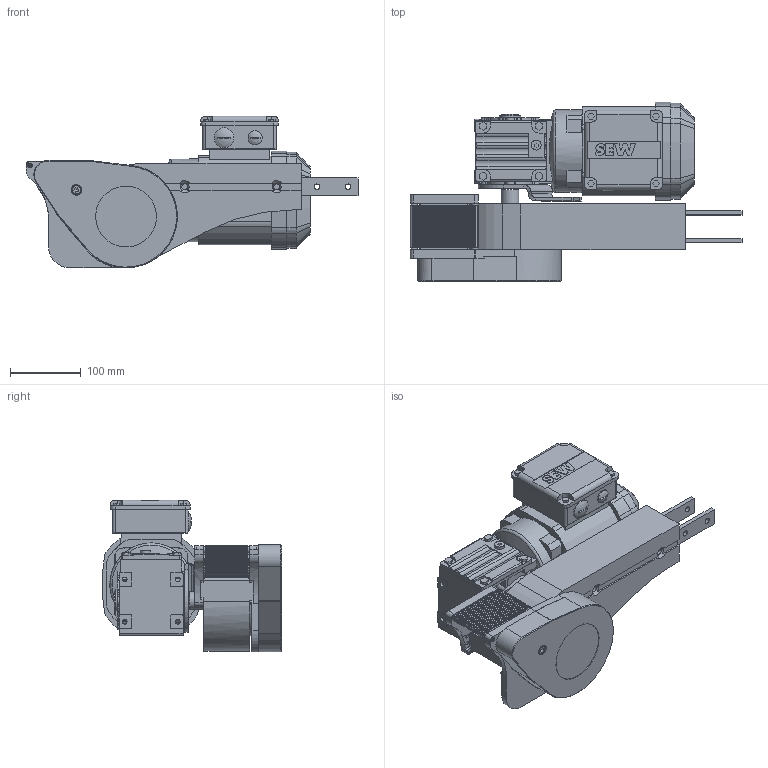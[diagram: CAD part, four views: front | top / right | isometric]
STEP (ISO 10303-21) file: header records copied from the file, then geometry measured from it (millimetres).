
FILE_DESCRIPTION(/* description */ (''),/* implementation_level */ '2;1');
FILE_NAME(/* name */ 'C:\CAD-MAG-2021\Technik\20_MAG-Konstruktion\01_FT - Fördertechnik\58000\57703-LD.stp',/* time_stamp */ '2024-09-25T13:28:59+02:00',/* author */ ('dwt0'),/* organization */ ('MAG'),/* preprocessor_version */ 'ST-DEVELOPER v18.1',/* originating_system */ 'Autodesk Inventor 2021',/* authorisation */ '');
FILE_SCHEMA (('CONFIG_CONTROL_DESIGN'));
Length unit declared in the file: millimetre
Products named in the file (1): 57703-LD
Bounding box: 469.53 x 253.64 x 214.5 mm (x, y, z)
Volume: 7352434.1 mm3; surface area: 638758.9 mm2
Topology: 14 solids, 64 shells, 2778 faces, 7720 edges, 5096 vertices
Faces by surface type: plane 1292, cylinder 1022, bspline 245, cone 129, torus 72, sphere 18
Full cylindrical faces by diameter (mm): 2 x2, 2.459 x4, 3 x4, 3.2 x4, 3.242 x6, 4 x13, 4.1 x2, 4.3 x1, 4.917 x4, 5 x8, 5.5 x4, 6 x20, 6.2 x1, 6.4 x1, 6.5 x8, 6.6 x8, 6.647 x1, 8 x14, 8.5 x6, 9 x7, 10 x10, 11 x5, 12 x12, 12.5 x1, 13 x6, 14 x3, 15 x6, 15.216 x4, 16 x1, 16.7 x2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
Entity records: 97123 total; most frequent: CARTESIAN_POINT 22752, ORIENTED_EDGE 15344, DIRECTION 14497, EDGE_CURVE 7672, VERTEX_POINT 5144, AXIS2_PLACEMENT_3D 5085, LINE 4327, VECTOR 4327
